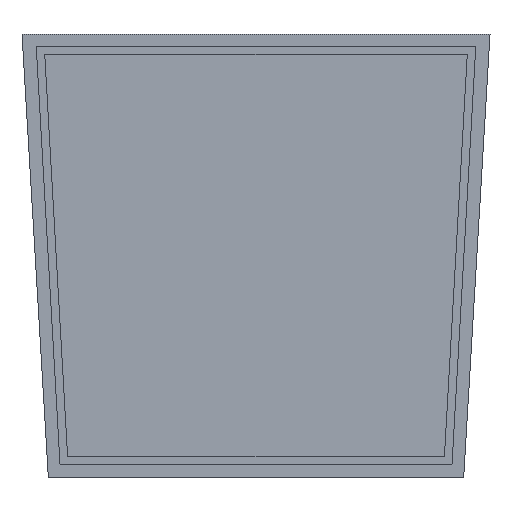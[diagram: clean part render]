
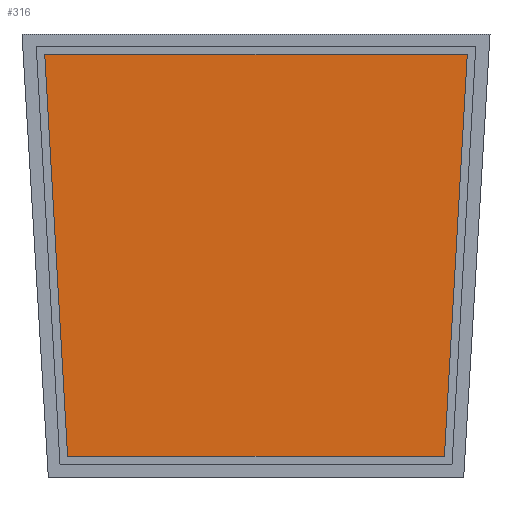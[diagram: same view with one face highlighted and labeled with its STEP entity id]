
A CAD part, top view. The second image highlights one B-rep face of the part: STEP entity #316.
In plain terms, the highlighted planar face has unit normal (0, 0, 1).
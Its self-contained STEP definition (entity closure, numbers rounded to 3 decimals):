
#214=CARTESIAN_POINT('',(78.854,153.14,3.));
#215=VERTEX_POINT('',#214);
#216=CARTESIAN_POINT('',(-78.854,153.14,3.));
#217=VERTEX_POINT('',#216);
#218=CARTESIAN_POINT('',(78.854,153.14,3.));
#219=DIRECTION('',(-1.,0.,0.));
#220=VECTOR('',#219,157.709);
#221=LINE('',#218,#220);
#222=EDGE_CURVE('',#215,#217,#221,.T.);
#245=CARTESIAN_POINT('',(-70.311,3.,3.));
#246=VERTEX_POINT('',#245);
#247=CARTESIAN_POINT('',(-78.854,153.14,3.));
#248=DIRECTION('',(0.057,-0.998,0.));
#249=VECTOR('',#248,150.383);
#250=LINE('',#247,#249);
#251=EDGE_CURVE('',#217,#246,#250,.T.);
#269=CARTESIAN_POINT('',(70.311,3.,3.));
#270=VERTEX_POINT('',#269);
#271=CARTESIAN_POINT('',(70.311,3.,3.));
#272=DIRECTION('',(-1.,0.,0.));
#273=VECTOR('',#272,140.622);
#274=LINE('',#271,#273);
#275=EDGE_CURVE('',#270,#246,#274,.T.);
#293=CARTESIAN_POINT('',(70.311,3.,3.));
#294=DIRECTION('',(0.057,0.998,0.));
#295=VECTOR('',#294,150.383);
#296=LINE('',#293,#295);
#297=EDGE_CURVE('',#270,#215,#296,.T.);
#305=CARTESIAN_POINT('',(0.,0.,3.));
#306=DIRECTION('',(0.,0.,1.));
#307=DIRECTION('',(1.,0.,0.));
#308=AXIS2_PLACEMENT_3D('',#305,#306,#307);
#309=PLANE('',#308);
#310=ORIENTED_EDGE('',*,*,#222,.T.);
#311=ORIENTED_EDGE('',*,*,#251,.T.);
#312=ORIENTED_EDGE('',*,*,#275,.F.);
#313=ORIENTED_EDGE('',*,*,#297,.T.);
#314=EDGE_LOOP('',(#310,#311,#312,#313));
#315=FACE_BOUND('',#314,.T.);
#316=ADVANCED_FACE('',(#315),#309,.T.);
